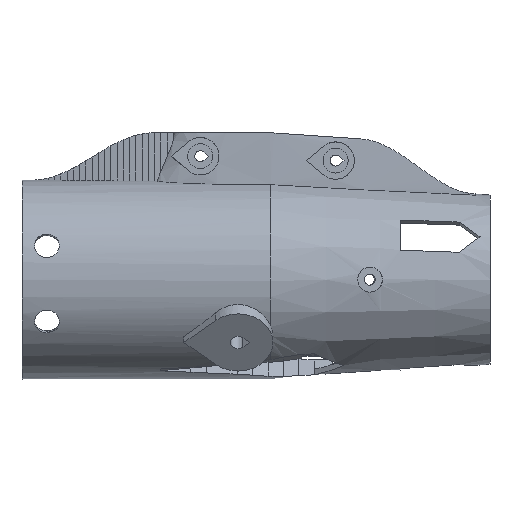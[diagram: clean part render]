
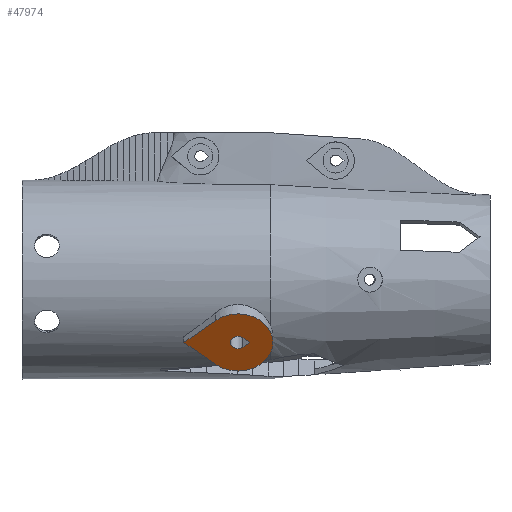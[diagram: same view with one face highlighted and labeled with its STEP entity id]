
A CAD part, front view. The second image highlights one B-rep face of the part: STEP entity #47974.
In plain terms, the highlighted planar face has unit normal (0, -0.819, -0.574).
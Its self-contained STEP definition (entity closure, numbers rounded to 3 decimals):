
#1913 = CYLINDRICAL_SURFACE('',#1914,7.);
#1914 = AXIS2_PLACEMENT_3D('',#1915,#1916,#1917);
#1915 = CARTESIAN_POINT('',(413.4,-9.83,-6.883));
#1916 = DIRECTION('',(-0.,-0.819,-0.574));
#1917 = DIRECTION('',(-0.,-0.574,0.819));
#1984 = PLANE('',#1985);
#1985 = AXIS2_PLACEMENT_3D('',#1986,#1987,#1988);
#1986 = CARTESIAN_POINT('',(408.9,-6.754,
    -11.275));
#1987 = DIRECTION('',(0.643,-0.439,0.628));
#1988 = DIRECTION('',(0.766,0.369,-0.527));
#2016 = PLANE('',#2017);
#2017 = AXIS2_PLACEMENT_3D('',#2018,#2019,#2020);
#2018 = CARTESIAN_POINT('',(402.51,-9.83,
    -6.883));
#2019 = DIRECTION('',(0.643,0.439,-0.628));
#2020 = DIRECTION('',(-0.766,0.369,-0.527));
#47837 = CYLINDRICAL_SURFACE('',#47838,1.525);
#47838 = AXIS2_PLACEMENT_3D('',#47839,#47840,#47841);
#47839 = CARTESIAN_POINT('',(413.4,-4.096,-2.868));
#47840 = DIRECTION('',(-0.,-0.819,-0.574));
#47841 = DIRECTION('',(-0.,-0.574,0.819));
#47865 = PLANE('',#47866);
#47866 = AXIS2_PLACEMENT_3D('',#47867,#47868,#47869);
#47867 = CARTESIAN_POINT('',(414.38,-3.426,
    -3.825));
#47868 = DIRECTION('',(0.643,0.439,-0.628));
#47869 = DIRECTION('',(-0.766,0.369,-0.527));
#47890 = PLANE('',#47891);
#47891 = AXIS2_PLACEMENT_3D('',#47892,#47893,#47894);
#47892 = CARTESIAN_POINT('',(415.772,-4.096,
    -2.868));
#47893 = DIRECTION('',(0.643,-0.439,0.628));
#47894 = DIRECTION('',(0.766,0.369,-0.527));
#47906 = VERTEX_POINT('',#47907);
#47907 = CARTESIAN_POINT('',(415.772,-18.021,
    -12.619));
#47928 = EDGE_CURVE('',#47906,#47929,#47931,.T.);
#47929 = VERTEX_POINT('',#47930);
#47930 = CARTESIAN_POINT('',(414.38,-18.691,
    -11.662));
#47931 = SURFACE_CURVE('',#47932,(#47936,#47942),.PCURVE_S1.);
#47932 = LINE('',#47933,#47934);
#47933 = CARTESIAN_POINT('',(415.076,-18.356,
    -12.14));
#47934 = VECTOR('',#47935,1.);
#47935 = DIRECTION('',(-0.766,-0.369,0.527));
#47936 = PCURVE('',#47890,#47937);
#47937 = DEFINITIONAL_REPRESENTATION('',(#47938),#47941);
#47938 = B_SPLINE_CURVE_WITH_KNOTS('',1,(#47939,#47940),.UNSPECIFIED.,
  .F.,.F.,(2,2),(-0.909,0.909),
  .PIECEWISE_BEZIER_KNOTS.);
#47939 = CARTESIAN_POINT('',(0.,-17.));
#47940 = CARTESIAN_POINT('',(-1.817,-17.));
#47941 = ( GEOMETRIC_REPRESENTATION_CONTEXT(2) 
PARAMETRIC_REPRESENTATION_CONTEXT() REPRESENTATION_CONTEXT('2D SPACE',''
  ) );
#47942 = PCURVE('',#47943,#47948);
#47943 = PLANE('',#47944);
#47944 = AXIS2_PLACEMENT_3D('',#47945,#47946,#47947);
#47945 = CARTESIAN_POINT('',(413.4,-18.021,-12.619));
#47946 = DIRECTION('',(-0.,-0.819,-0.574));
#47947 = DIRECTION('',(0.,0.574,-0.819));
#47948 = DEFINITIONAL_REPRESENTATION('',(#47949),#47953);
#47949 = LINE('',#47950,#47951);
#47950 = CARTESIAN_POINT('',(-0.584,1.676));
#47951 = VECTOR('',#47952,1.);
#47952 = DIRECTION('',(-0.643,-0.766));
#47953 = ( GEOMETRIC_REPRESENTATION_CONTEXT(2) 
PARAMETRIC_REPRESENTATION_CONTEXT() REPRESENTATION_CONTEXT('2D SPACE',''
  ) );
#47974 = ADVANCED_FACE('',(#47975,#48051),#47943,.T.);
#47975 = FACE_BOUND('',#47976,.F.);
#47976 = EDGE_LOOP('',(#47977,#48007,#48030));
#47977 = ORIENTED_EDGE('',*,*,#47978,.T.);
#47978 = EDGE_CURVE('',#47979,#47981,#47983,.T.);
#47979 = VERTEX_POINT('',#47980);
#47980 = CARTESIAN_POINT('',(408.9,-21.097,
    -8.226));
#47981 = VERTEX_POINT('',#47982);
#47982 = CARTESIAN_POINT('',(408.9,-14.946,
    -17.011));
#47983 = SURFACE_CURVE('',#47984,(#47989,#48000),.PCURVE_S1.);
#47984 = CIRCLE('',#47985,7.);
#47985 = AXIS2_PLACEMENT_3D('',#47986,#47987,#47988);
#47986 = CARTESIAN_POINT('',(413.4,-18.021,-12.619));
#47987 = DIRECTION('',(0.,0.819,0.574));
#47988 = DIRECTION('',(-0.643,-0.439,0.628));
#47989 = PCURVE('',#47943,#47990);
#47990 = DEFINITIONAL_REPRESENTATION('',(#47991),#47999);
#47991 = ( BOUNDED_CURVE() B_SPLINE_CURVE(2,(#47992,#47993,#47994,#47995
    ,#47996,#47997,#47998),.UNSPECIFIED.,.T.,.F.) 
B_SPLINE_CURVE_WITH_KNOTS((1,2,2,2,2,1),(-2.094,0.,
    2.094,4.189,6.283,8.378),
.UNSPECIFIED.) CURVE() GEOMETRIC_REPRESENTATION_ITEM() 
RATIONAL_B_SPLINE_CURVE((1.,0.5,1.,0.5,1.,0.5,1.)) REPRESENTATION_ITEM(
  '') );
#47992 = CARTESIAN_POINT('',(-5.362,-4.5));
#47993 = CARTESIAN_POINT('',(-13.156,4.788));
#47994 = CARTESIAN_POINT('',(-1.216,6.894));
#47995 = CARTESIAN_POINT('',(10.725,8.999));
#47996 = CARTESIAN_POINT('',(6.578,-2.394));
#47997 = CARTESIAN_POINT('',(2.431,-13.787));
#47998 = CARTESIAN_POINT('',(-5.362,-4.5));
#47999 = ( GEOMETRIC_REPRESENTATION_CONTEXT(2) 
PARAMETRIC_REPRESENTATION_CONTEXT() REPRESENTATION_CONTEXT('2D SPACE',''
  ) );
#48000 = PCURVE('',#1913,#48001);
#48001 = DEFINITIONAL_REPRESENTATION('',(#48002),#48006);
#48002 = LINE('',#48003,#48004);
#48003 = CARTESIAN_POINT('',(-5.585,10.));
#48004 = VECTOR('',#48005,1.);
#48005 = DIRECTION('',(-1.,0.));
#48006 = ( GEOMETRIC_REPRESENTATION_CONTEXT(2) 
PARAMETRIC_REPRESENTATION_CONTEXT() REPRESENTATION_CONTEXT('2D SPACE',''
  ) );
#48007 = ORIENTED_EDGE('',*,*,#48008,.T.);
#48008 = EDGE_CURVE('',#47981,#48009,#48011,.T.);
#48009 = VERTEX_POINT('',#48010);
#48010 = CARTESIAN_POINT('',(402.51,-18.021,
    -12.619));
#48011 = SURFACE_CURVE('',#48012,(#48016,#48023),.PCURVE_S1.);
#48012 = LINE('',#48013,#48014);
#48013 = CARTESIAN_POINT('',(408.9,-14.946,
    -17.011));
#48014 = VECTOR('',#48015,1.);
#48015 = DIRECTION('',(-0.766,-0.369,0.527));
#48016 = PCURVE('',#47943,#48017);
#48017 = DEFINITIONAL_REPRESENTATION('',(#48018),#48022);
#48018 = LINE('',#48019,#48020);
#48019 = CARTESIAN_POINT('',(5.362,-4.5));
#48020 = VECTOR('',#48021,1.);
#48021 = DIRECTION('',(-0.643,-0.766));
#48022 = ( GEOMETRIC_REPRESENTATION_CONTEXT(2) 
PARAMETRIC_REPRESENTATION_CONTEXT() REPRESENTATION_CONTEXT('2D SPACE',''
  ) );
#48023 = PCURVE('',#1984,#48024);
#48024 = DEFINITIONAL_REPRESENTATION('',(#48025),#48029);
#48025 = LINE('',#48026,#48027);
#48026 = CARTESIAN_POINT('',(0.,-10.));
#48027 = VECTOR('',#48028,1.);
#48028 = DIRECTION('',(-1.,0.));
#48029 = ( GEOMETRIC_REPRESENTATION_CONTEXT(2) 
PARAMETRIC_REPRESENTATION_CONTEXT() REPRESENTATION_CONTEXT('2D SPACE',''
  ) );
#48030 = ORIENTED_EDGE('',*,*,#48031,.T.);
#48031 = EDGE_CURVE('',#48009,#47979,#48032,.T.);
#48032 = SURFACE_CURVE('',#48033,(#48037,#48044),.PCURVE_S1.);
#48033 = LINE('',#48034,#48035);
#48034 = CARTESIAN_POINT('',(402.51,-18.021,
    -12.619));
#48035 = VECTOR('',#48036,1.);
#48036 = DIRECTION('',(0.766,-0.369,0.527));
#48037 = PCURVE('',#47943,#48038);
#48038 = DEFINITIONAL_REPRESENTATION('',(#48039),#48043);
#48039 = LINE('',#48040,#48041);
#48040 = CARTESIAN_POINT('',(-0.,-10.89));
#48041 = VECTOR('',#48042,1.);
#48042 = DIRECTION('',(-0.643,0.766));
#48043 = ( GEOMETRIC_REPRESENTATION_CONTEXT(2) 
PARAMETRIC_REPRESENTATION_CONTEXT() REPRESENTATION_CONTEXT('2D SPACE',''
  ) );
#48044 = PCURVE('',#2016,#48045);
#48045 = DEFINITIONAL_REPRESENTATION('',(#48046),#48050);
#48046 = LINE('',#48047,#48048);
#48047 = CARTESIAN_POINT('',(0.,-10.));
#48048 = VECTOR('',#48049,1.);
#48049 = DIRECTION('',(-1.,0.));
#48050 = ( GEOMETRIC_REPRESENTATION_CONTEXT(2) 
PARAMETRIC_REPRESENTATION_CONTEXT() REPRESENTATION_CONTEXT('2D SPACE',''
  ) );
#48051 = FACE_BOUND('',#48052,.F.);
#48052 = EDGE_LOOP('',(#48053,#48081,#48101));
#48053 = ORIENTED_EDGE('',*,*,#48054,.F.);
#48054 = EDGE_CURVE('',#48055,#47929,#48057,.T.);
#48055 = VERTEX_POINT('',#48056);
#48056 = CARTESIAN_POINT('',(414.38,-17.351,
    -13.576));
#48057 = SURFACE_CURVE('',#48058,(#48063,#48074),.PCURVE_S1.);
#48058 = CIRCLE('',#48059,1.525);
#48059 = AXIS2_PLACEMENT_3D('',#48060,#48061,#48062);
#48060 = CARTESIAN_POINT('',(413.4,-18.021,-12.619));
#48061 = DIRECTION('',(0.,0.819,0.574)
  );
#48062 = DIRECTION('',(0.643,0.439,-0.628));
#48063 = PCURVE('',#47943,#48064);
#48064 = DEFINITIONAL_REPRESENTATION('',(#48065),#48073);
#48065 = ( BOUNDED_CURVE() B_SPLINE_CURVE(2,(#48066,#48067,#48068,#48069
    ,#48070,#48071,#48072),.UNSPECIFIED.,.T.,.F.) 
B_SPLINE_CURVE_WITH_KNOTS((1,2,2,2,2,1),(-2.094,0.,
    2.094,4.189,6.283,8.378),
.UNSPECIFIED.) CURVE() GEOMETRIC_REPRESENTATION_ITEM() 
RATIONAL_B_SPLINE_CURVE((1.,0.5,1.,0.5,1.,0.5,1.)) REPRESENTATION_ITEM(
  '') );
#48066 = CARTESIAN_POINT('',(1.168,0.98));
#48067 = CARTESIAN_POINT('',(2.866,-1.043));
#48068 = CARTESIAN_POINT('',(0.265,-1.502));
#48069 = CARTESIAN_POINT('',(-2.336,-1.961));
#48070 = CARTESIAN_POINT('',(-1.433,0.522));
#48071 = CARTESIAN_POINT('',(-0.53,3.004));
#48072 = CARTESIAN_POINT('',(1.168,0.98));
#48073 = ( GEOMETRIC_REPRESENTATION_CONTEXT(2) 
PARAMETRIC_REPRESENTATION_CONTEXT() REPRESENTATION_CONTEXT('2D SPACE',''
  ) );
#48074 = PCURVE('',#47837,#48075);
#48075 = DEFINITIONAL_REPRESENTATION('',(#48076),#48080);
#48076 = LINE('',#48077,#48078);
#48077 = CARTESIAN_POINT('',(-2.443,17.));
#48078 = VECTOR('',#48079,1.);
#48079 = DIRECTION('',(-1.,-0.));
#48080 = ( GEOMETRIC_REPRESENTATION_CONTEXT(2) 
PARAMETRIC_REPRESENTATION_CONTEXT() REPRESENTATION_CONTEXT('2D SPACE',''
  ) );
#48081 = ORIENTED_EDGE('',*,*,#48082,.T.);
#48082 = EDGE_CURVE('',#48055,#47906,#48083,.T.);
#48083 = SURFACE_CURVE('',#48084,(#48088,#48095),.PCURVE_S1.);
#48084 = LINE('',#48085,#48086);
#48085 = CARTESIAN_POINT('',(414.38,-17.351,
    -13.576));
#48086 = VECTOR('',#48087,1.);
#48087 = DIRECTION('',(0.766,-0.369,0.527));
#48088 = PCURVE('',#47943,#48089);
#48089 = DEFINITIONAL_REPRESENTATION('',(#48090),#48094);
#48090 = LINE('',#48091,#48092);
#48091 = CARTESIAN_POINT('',(1.168,0.98));
#48092 = VECTOR('',#48093,1.);
#48093 = DIRECTION('',(-0.643,0.766));
#48094 = ( GEOMETRIC_REPRESENTATION_CONTEXT(2) 
PARAMETRIC_REPRESENTATION_CONTEXT() REPRESENTATION_CONTEXT('2D SPACE',''
  ) );
#48095 = PCURVE('',#47865,#48096);
#48096 = DEFINITIONAL_REPRESENTATION('',(#48097),#48100);
#48097 = B_SPLINE_CURVE_WITH_KNOTS('',1,(#48098,#48099),.UNSPECIFIED.,
  .F.,.F.,(2,2),(0.,1.817),
  .PIECEWISE_BEZIER_KNOTS.);
#48098 = CARTESIAN_POINT('',(0.,-17.));
#48099 = CARTESIAN_POINT('',(-1.817,-17.));
#48100 = ( GEOMETRIC_REPRESENTATION_CONTEXT(2) 
PARAMETRIC_REPRESENTATION_CONTEXT() REPRESENTATION_CONTEXT('2D SPACE',''
  ) );
#48101 = ORIENTED_EDGE('',*,*,#47928,.T.);
